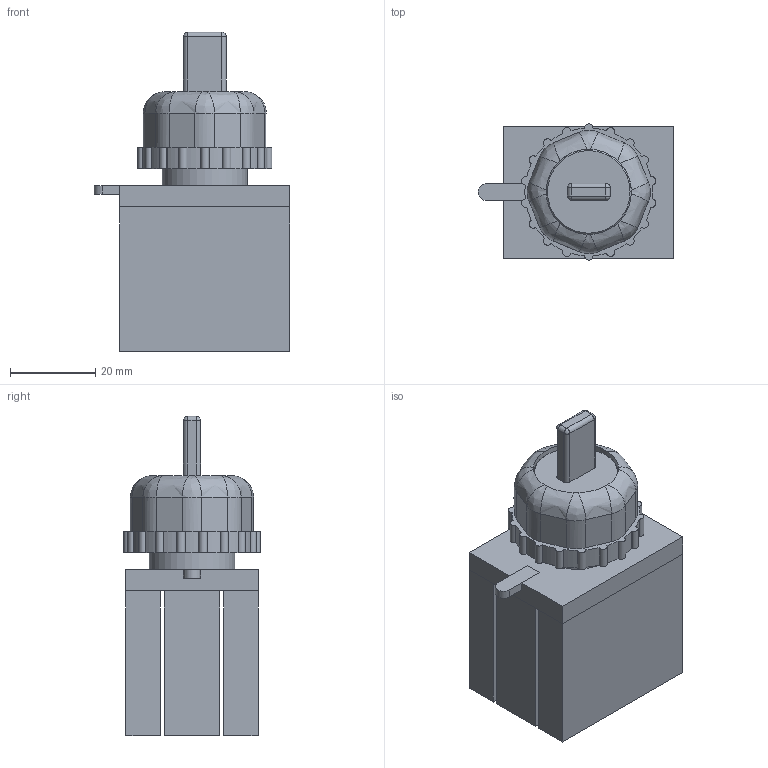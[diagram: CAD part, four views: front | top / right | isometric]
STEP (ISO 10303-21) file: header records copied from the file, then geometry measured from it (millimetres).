
FILE_DESCRIPTION(/* description */ (''),/* implementation_level */ '2;1');
FILE_NAME(/* name */ 'D:\CHINT3\NP8-XD.stp',/* time_stamp */ '2017-12-10T21:02:17+03:00',/* author */ ('RSagdiev'),/* organization */ (''),/* preprocessor_version */ 'ST-DEVELOPER v16.5',/* originating_system */ 'Autodesk Inventor 2017',/* authorisation */ '');
FILE_SCHEMA (('AUTOMOTIVE_DESIGN { 1 0 10303 214 3 1 1 }'));
Length unit declared in the file: millimetre
Products named in the file (1): NP8-XD
Bounding box: 46 x 32 x 75 mm (x, y, z)
Volume: 58622.1 mm3; surface area: 22992 mm2
Topology: 10 solids, 10 shells, 167 faces, 415 edges, 267 vertices
Faces by surface type: plane 90, cylinder 56, bspline 16, sphere 4, cone 1
Full cylindrical faces by diameter (mm): 20 x3
Entity records: 5353 total; most frequent: CARTESIAN_POINT 1292, DIRECTION 834, ORIENTED_EDGE 820, EDGE_CURVE 410, AXIS2_PLACEMENT_3D 288, VERTEX_POINT 266, LINE 258, VECTOR 258
